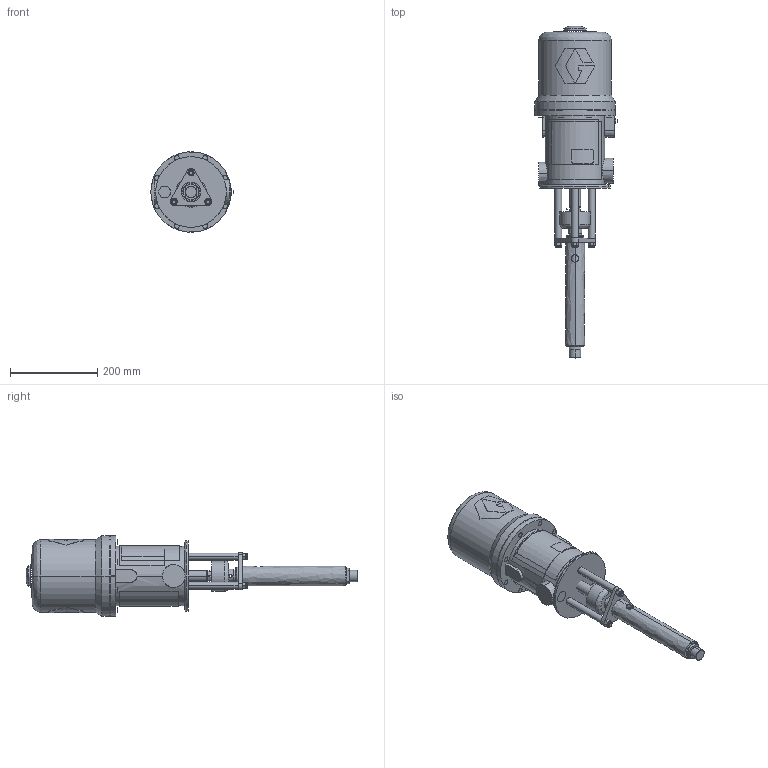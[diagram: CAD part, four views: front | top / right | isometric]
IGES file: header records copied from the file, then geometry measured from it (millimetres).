
Start section:  PTC IGES file: 243664-en-f.igs
Global section: file name: 243664-en-f.igs; native system: Creo Parametric by PTC Inc.; preprocessor: 2021072; author: qufmd1; organization: Unknown; date: 20220621.141625; units: inch
Bounding box: 188.59 x 761.77 x 184.15 mm (x, y, z)
Surface area: 444103.7 mm2 (no closed solid volume)
Topology: 0 solids, 0 shells, 301 faces, 1338 edges, 1338 vertices
Faces by surface type: revolution 183, bspline 118
